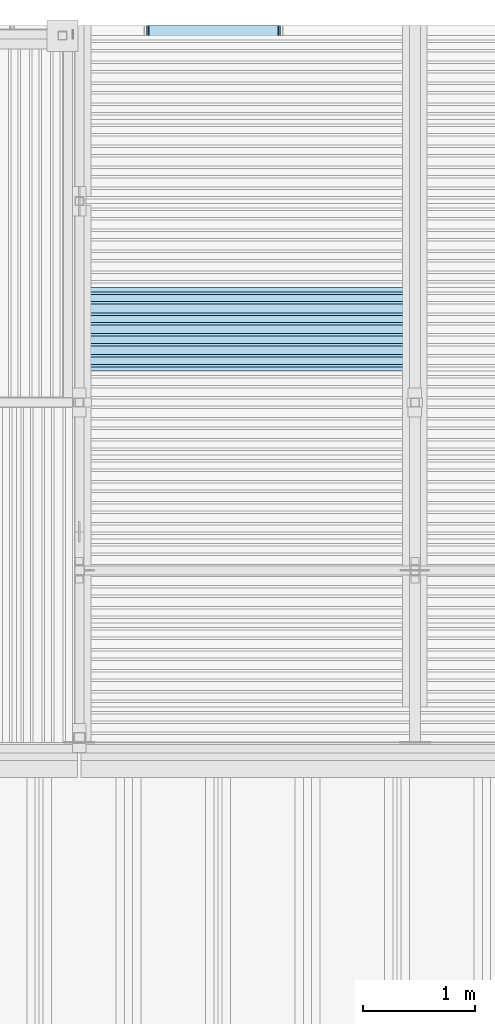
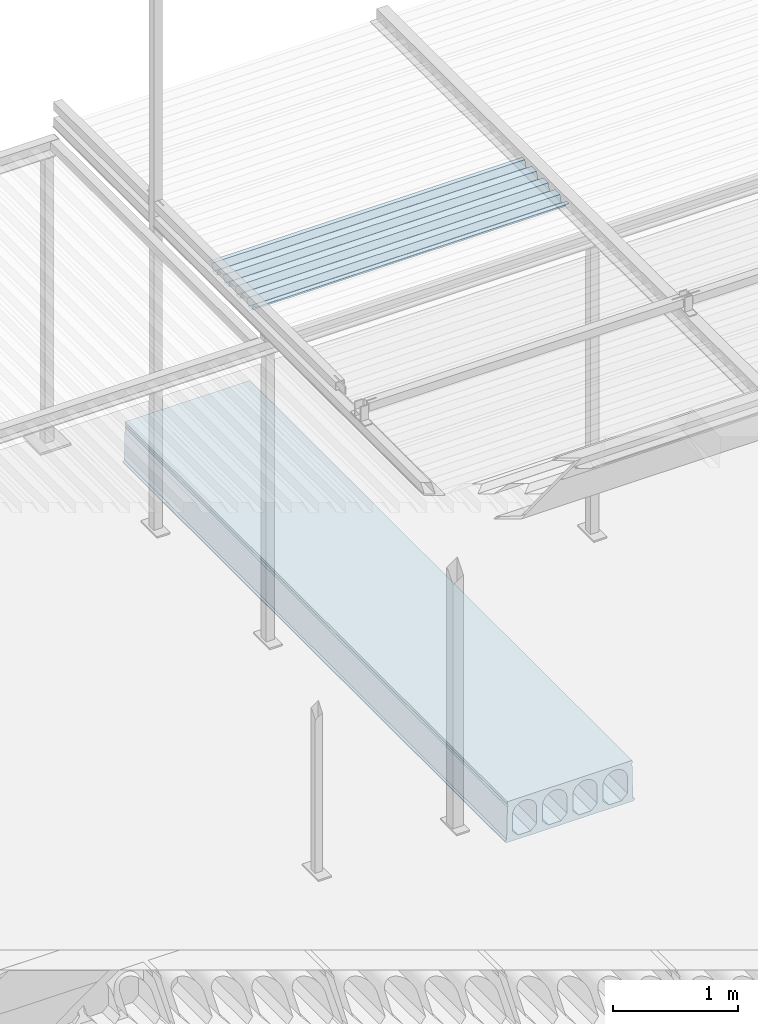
# One storey, part 84 of 98: 2 slabs.
"""IFC2X3 building model written with IfcOpenShell, lengths in millimetres."""

from ifc_helpers import new_model, entity, si_unit, converted_unit, derived_unit, direction, frame, origin_with_axes, place, context, subcontext, project, spatial, faceted_brep, material, type_object, element, save


model = new_model("IFC2X3")

# Units and contexts
model_context = context("Model", 3, precision=0.01, world=frame((0.0, 4.29681676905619e-09, 0.0)), true_north=direction((4.01073788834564e-13, 1.0)))
plan_context = context("Plan", 3, precision=0.01, world=frame((0.0, 4.29681676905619e-09, 0.0)), true_north=direction((4.01073788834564e-13, 1.0)))
body_context = subcontext(model_context, "Body", "Model", "MODEL_VIEW")
ifc_project = project(units=[converted_unit("PLANEANGLEUNIT", "DEGREE", entity("IfcPositiveLengthMeasure", 0.0174532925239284), si_unit("PLANEANGLEUNIT", "RADIAN"), dimensions=[0, 0, 0, 0, 0, 0, 0]), si_unit("AREAUNIT", "SQUARE_METRE"), si_unit("LENGTHUNIT", "METRE", prefix="MILLI"), si_unit("MASSUNIT", "GRAM", prefix="KILO"), si_unit("POWERUNIT", "WATT"), si_unit("PRESSUREUNIT", "PASCAL"), si_unit("FORCEUNIT", "NEWTON", prefix="KILO"), si_unit("ELECTRICCURRENTUNIT", "AMPERE"), si_unit("THERMODYNAMICTEMPERATUREUNIT", "DEGREE_CELSIUS"), si_unit("TIMEUNIT", "SECOND"), si_unit("VOLUMEUNIT", "CUBIC_METRE"), derived_unit("LINEARVELOCITYUNIT", [(si_unit("LENGTHUNIT", "METRE"), 1), (si_unit("TIMEUNIT", "SECOND"), -1)]), derived_unit("VOLUMETRICFLOWRATEUNIT", [(si_unit("VOLUMEUNIT", "CUBIC_METRE"), 1), (si_unit("TIMEUNIT", "SECOND"), -1)]), derived_unit("THERMALTRANSMITTANCEUNIT", [(si_unit("POWERUNIT", "WATT"), 1), (si_unit("THERMODYNAMICTEMPERATUREUNIT", "KELVIN"), -1), (si_unit("AREAUNIT", "SQUARE_METRE"), -1)])], contexts=[model_context, plan_context])

# Site, building, storey
site_placement = place(None, frame((0.0, -4.29681676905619e-09, 0.0), z_axis=(0.0, 0.0, 1.0), x_axis=(1.0, 0.0, 0.0)))
site = spatial("IfcSite", under=ifc_project, at=site_placement, Name="Gardermoen", CompositionType="ELEMENT")
building_placement = place(site_placement, frame((0.0, 4.29681676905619e-09, 0.0), z_axis=(0.0, 0.0, 1.0), x_axis=(1.0, 0.0, 0.0)))
building = spatial("IfcBuilding", under=site, at=building_placement, Name="TS", CompositionType="ELEMENT")
storey_placement = place(building_placement, origin_with_axes())
storey = spatial("IfcBuildingStorey", under=building, at=storey_placement, Name="D", CompositionType="ELEMENT", Elevation=0.0)

# Slabs
slab_type_1 = type_object("IfcSlabType", Name="HD400", PredefinedType="NOTDEFINED")
slab_1_placement = place(storey_placement, frame((521199.999766, 414739.995625, 203600.0), z_axis=(0.0, 0.0, 1.0), x_axis=(0.0, 1.0, 0.0)))
element("IfcSlab", 1, at=slab_1_placement, inside=storey, type_object=slab_type_1, Name="HULLDEKKE", ObjectType="HD400", PredefinedType="FLOOR", context=body_context, shape_type="Brep", body=[
    faceted_brep([(6130.19582840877, 600.0, -190.0), (6130.19582840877, 600.0, -180.0), (0.0, 600.0, -180.0), (0.0, 600.0, -190.0), (6130.19582840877, 585.0, -170.0), (0.0, 585.0, -170.0), (6130.19582840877, 577.5, 145.0), (0.0, 577.5, 145.0), (6130.19582840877, 570.0, 160.0), (0.0, 570.0, 160.0), (6130.19582840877, 577.5, 175.0), (0.0, 577.5, 175.0), (6130.19582840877, 577.5, 200.0), (0.0, 577.5, 200.0), (6130.19582840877, -577.5, 200.0), (0.0, -577.5, 200.0), (6130.19582840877, -577.5, 175.0), (0.0, -577.5, 175.0), (6130.19582840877, -570.0, 160.0), (0.0, -570.0, 160.0), (6130.19582840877, -577.5, 145.0), (0.0, -577.5, 145.0), (6130.19582840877, -585.0, -170.0), (0.0, -585.0, -170.0), (6130.19582840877, -600.0, -180.0), (0.0, -600.0, -180.0), (6130.19582840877, -600.0, -190.0), (0.0, -600.0, -190.0), (6130.19582840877, -583.380004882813, -200.0), (0.0, -583.380004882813, -200.0), (6130.19582840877, 583.380004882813, -200.0), (0.0, 583.380004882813, -200.0), (6130.19582840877, -362.5, -160.0), (6130.19582840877, -477.5, -160.0), (0.0, -477.5, -160.0), (0.0, -362.5, -160.0), (6130.19582840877, -532.5, -105.0), (0.0, -532.5, -105.0), (6130.19582840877, -532.5, 47.5), (0.0, -532.5, 47.5), (6130.19582840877, -532.115755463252, 56.7901763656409), (0.0, -532.115755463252, 56.7901763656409), (6130.19582840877, -530.965646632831, 66.0168914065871), (0.0, -530.965646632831, 66.0168914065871), (6130.19582840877, -529.057529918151, 75.1171173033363), (0.0, -529.057529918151, 75.1171173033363), (6130.19582840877, -526.404439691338, 84.028690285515), (0.0, -526.404439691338, 84.028690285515), (6130.19582840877, -523.024499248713, 92.6907352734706), (0.0, -523.024499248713, 92.6907352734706), (6130.19582840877, -518.940797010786, 101.044081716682), (0.0, -518.940797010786, 101.044081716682), (6130.19582840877, -514.181228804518, 109.031667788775), (0.0, -514.181228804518, 109.031667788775), (6130.19582840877, -508.778307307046, 116.598930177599), (0.0, -508.778307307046, 116.598930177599), (6130.19582840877, -502.768939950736, 123.694176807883), (0.0, -502.768939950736, 123.694176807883), (6130.19582840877, -496.194176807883, 130.268939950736), (0.0, -496.194176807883, 130.268939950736), (6130.19582840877, -489.098930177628, 136.278307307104), (0.0, -489.098930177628, 136.278307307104), (6130.19582840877, -481.531667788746, 141.681228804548), (0.0, -481.531667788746, 141.681228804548), (6130.19582840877, -473.544081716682, 146.440797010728), (0.0, -473.544081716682, 146.440797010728), (6130.19582840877, -465.190735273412, 150.524499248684), (0.0, -465.190735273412, 150.524499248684), (6130.19582840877, -456.528690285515, 153.904439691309), (0.0, -456.528690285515, 153.904439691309), (6130.19582840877, -447.617117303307, 156.55752991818), (0.0, -447.617117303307, 156.55752991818), (6130.19582840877, -438.516891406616, 158.465646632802), (0.0, -438.516891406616, 158.465646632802), (6130.19582840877, -429.290176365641, 159.615755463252), (0.0, -429.290176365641, 159.615755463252), (6130.19582840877, -420.0, 160.0), (0.0, -420.0, 160.0), (6130.19582840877, -410.709823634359, 159.615755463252), (0.0, -410.709823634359, 159.615755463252), (6130.19582840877, -401.483108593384, 158.465646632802), (0.0, -401.483108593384, 158.465646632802), (6130.19582840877, -392.382882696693, 156.55752991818), (0.0, -392.382882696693, 156.55752991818), (6130.19582840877, -383.471309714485, 153.904439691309), (0.0, -383.471309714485, 153.904439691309), (6130.19582840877, -374.809264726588, 150.524499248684), (0.0, -374.809264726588, 150.524499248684), (6130.19582840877, -366.455918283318, 146.440797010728), (0.0, -366.455918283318, 146.440797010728), (6130.19582840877, -358.468332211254, 141.681228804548), (0.0, -358.468332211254, 141.681228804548), (6130.19582840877, -350.901069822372, 136.278307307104), (0.0, -350.901069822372, 136.278307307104), (6130.19582840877, -343.805823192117, 130.268939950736), (0.0, -343.805823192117, 130.268939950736), (6130.19582840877, -337.231060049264, 123.694176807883), (0.0, -337.231060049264, 123.694176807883), (6130.19582840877, -331.221692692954, 116.598930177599), (0.0, -331.221692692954, 116.598930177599), (6130.19582840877, -325.818771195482, 109.031667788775), (0.0, -325.818771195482, 109.031667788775), (6130.19582840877, -321.059202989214, 101.044081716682), (0.0, -321.059202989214, 101.044081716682), (6130.19582840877, -316.975500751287, 92.6907352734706), (0.0, -316.975500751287, 92.6907352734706), (6130.19582840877, -313.595560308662, 84.028690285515), (0.0, -313.595560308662, 84.028690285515), (6130.19582840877, -310.942470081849, 75.1171173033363), (0.0, -310.942470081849, 75.1171173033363), (6130.19582840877, -309.034353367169, 66.0168914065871), (0.0, -309.034353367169, 66.0168914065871), (6130.19582840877, -307.884244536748, 56.7901763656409), (0.0, -307.884244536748, 56.7901763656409), (6130.19582840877, -307.5, 47.5), (0.0, -307.5, 47.5), (6130.19582840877, -307.5, -105.0), (0.0, -307.5, -105.0), (6130.19582840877, -82.5, -160.0), (6130.19582840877, -197.5, -160.0), (0.0, -197.5, -160.0), (0.0, -82.5, -160.0), (6130.19582840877, -252.5, -105.0), (0.0, -252.5, -105.0), (6130.19582840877, -252.5, 47.5), (0.0, -252.5, 47.5), (6130.19582840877, -252.115755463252, 56.7901763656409), (0.0, -252.115755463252, 56.7901763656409), (6130.19582840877, -250.965646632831, 66.0168914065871), (0.0, -250.965646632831, 66.0168914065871), (6130.19582840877, -249.057529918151, 75.1171173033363), (0.0, -249.057529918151, 75.1171173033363), (6130.19582840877, -246.404439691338, 84.028690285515), (0.0, -246.404439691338, 84.028690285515), (6130.19582840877, -243.024499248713, 92.6907352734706), (0.0, -243.024499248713, 92.6907352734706), (6130.19582840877, -238.940797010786, 101.044081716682), (0.0, -238.940797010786, 101.044081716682), (6130.19582840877, -234.181228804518, 109.031667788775), (0.0, -234.181228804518, 109.031667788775), (6130.19582840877, -228.778307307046, 116.598930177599), (0.0, -228.778307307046, 116.598930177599), (6130.19582840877, -222.768939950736, 123.694176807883), (0.0, -222.768939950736, 123.694176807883), (6130.19582840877, -216.194176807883, 130.268939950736), (0.0, -216.194176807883, 130.268939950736), (6130.19582840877, -209.098930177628, 136.278307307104), (0.0, -209.098930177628, 136.278307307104), (6130.19582840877, -201.531667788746, 141.681228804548), (0.0, -201.531667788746, 141.681228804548), (6130.19582840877, -193.544081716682, 146.440797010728), (0.0, -193.544081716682, 146.440797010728), (6130.19582840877, -185.190735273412, 150.524499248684), (0.0, -185.190735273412, 150.524499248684), (6130.19582840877, -176.528690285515, 153.904439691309), (0.0, -176.528690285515, 153.904439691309), (6130.19582840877, -167.617117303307, 156.55752991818), (0.0, -167.617117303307, 156.55752991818), (6130.19582840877, -158.516891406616, 158.465646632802), (0.0, -158.516891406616, 158.465646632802), (6130.19582840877, -149.290176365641, 159.615755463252), (0.0, -149.290176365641, 159.615755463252), (6130.19582840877, -140.0, 160.0), (0.0, -140.0, 160.0), (6130.19582840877, -130.709823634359, 159.615755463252), (0.0, -130.709823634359, 159.615755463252), (6130.19582840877, -121.483108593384, 158.465646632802), (0.0, -121.483108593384, 158.465646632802), (6130.19582840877, -112.382882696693, 156.55752991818), (0.0, -112.382882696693, 156.55752991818), (6130.19582840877, -103.471309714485, 153.904439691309), (0.0, -103.471309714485, 153.904439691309), (6130.19582840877, -94.8092647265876, 150.524499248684), (0.0, -94.8092647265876, 150.524499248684), (6130.19582840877, -86.4559182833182, 146.440797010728), (0.0, -86.4559182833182, 146.440797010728), (6130.19582840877, -78.4683322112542, 141.681228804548), (0.0, -78.4683322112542, 141.681228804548), (6130.19582840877, -70.9010698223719, 136.278307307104), (0.0, -70.9010698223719, 136.278307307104), (6130.19582840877, -63.8058231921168, 130.268939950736), (0.0, -63.8058231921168, 130.268939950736), (6130.19582840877, -57.2310600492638, 123.694176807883), (0.0, -57.2310600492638, 123.694176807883), (6130.19582840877, -51.2216926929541, 116.598930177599), (0.0, -51.2216926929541, 116.598930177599), (6130.19582840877, -45.8187711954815, 109.031667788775), (0.0, -45.8187711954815, 109.031667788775), (6130.19582840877, -41.0592029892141, 101.044081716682), (0.0, -41.0592029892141, 101.044081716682), (6130.19582840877, -36.9755007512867, 92.6907352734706), (0.0, -36.9755007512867, 92.6907352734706), (6130.19582840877, -33.5955603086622, 84.028690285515), (0.0, -33.5955603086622, 84.028690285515), (6130.19582840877, -30.942470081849, 75.1171173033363), (0.0, -30.942470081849, 75.1171173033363), (6130.19582840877, -29.0343533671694, 66.0168914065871), (0.0, -29.0343533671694, 66.0168914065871), (6130.19582840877, -27.8842445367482, 56.7901763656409), (0.0, -27.8842445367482, 56.7901763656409), (6130.19582840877, -27.5, 47.5), (0.0, -27.5, 47.5), (6130.19582840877, -27.5, -105.0), (0.0, -27.5, -105.0), (6130.19582840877, 197.5, -160.0), (6130.19582840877, 82.5, -160.0), (0.0, 82.5, -160.0), (0.0, 197.5, -160.0), (6130.19582840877, 27.5, -105.0), (0.0, 27.5, -105.0), (6130.19582840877, 27.5, 47.5), (0.0, 27.5, 47.5), (6130.19582840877, 27.8842445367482, 56.7901763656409), (0.0, 27.8842445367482, 56.7901763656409), (6130.19582840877, 29.0343533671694, 66.0168914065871), (0.0, 29.0343533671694, 66.0168914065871), (6130.19582840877, 30.942470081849, 75.1171173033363), (0.0, 30.942470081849, 75.1171173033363), (6130.19582840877, 33.5955603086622, 84.028690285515), (0.0, 33.5955603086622, 84.028690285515), (6130.19582840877, 36.9755007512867, 92.6907352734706), (0.0, 36.9755007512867, 92.6907352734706), (6130.19582840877, 41.0592029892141, 101.044081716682), (0.0, 41.0592029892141, 101.044081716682), (6130.19582840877, 45.8187711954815, 109.031667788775), (0.0, 45.8187711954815, 109.031667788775), (6130.19582840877, 51.2216926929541, 116.598930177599), (0.0, 51.2216926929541, 116.598930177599), (6130.19582840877, 57.2310600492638, 123.694176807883), (0.0, 57.2310600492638, 123.694176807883), (6130.19582840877, 63.8058231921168, 130.268939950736), (0.0, 63.8058231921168, 130.268939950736), (6130.19582840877, 70.9010698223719, 136.278307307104), (0.0, 70.9010698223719, 136.278307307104), (6130.19582840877, 78.4683322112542, 141.681228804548), (0.0, 78.4683322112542, 141.681228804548), (6130.19582840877, 86.4559182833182, 146.440797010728), (0.0, 86.4559182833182, 146.440797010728), (6130.19582840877, 94.8092647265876, 150.524499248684), (0.0, 94.8092647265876, 150.524499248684), (6130.19582840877, 103.471309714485, 153.904439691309), (0.0, 103.471309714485, 153.904439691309), (6130.19582840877, 112.382882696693, 156.55752991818), (0.0, 112.382882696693, 156.55752991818), (6130.19582840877, 121.483108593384, 158.465646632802), (0.0, 121.483108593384, 158.465646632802), (6130.19582840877, 130.709823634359, 159.615755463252), (0.0, 130.709823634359, 159.615755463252), (6130.19582840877, 140.0, 160.0), (0.0, 140.0, 160.0), (6130.19582840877, 149.290176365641, 159.615755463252), (0.0, 149.290176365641, 159.615755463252), (6130.19582840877, 158.516891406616, 158.465646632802), (0.0, 158.516891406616, 158.465646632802), (6130.19582840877, 167.617117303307, 156.55752991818), (0.0, 167.617117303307, 156.55752991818), (6130.19582840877, 176.528690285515, 153.904439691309), (0.0, 176.528690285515, 153.904439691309), (6130.19582840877, 185.190735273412, 150.524499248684), (0.0, 185.190735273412, 150.524499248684), (6130.19582840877, 193.544081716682, 146.440797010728), (0.0, 193.544081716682, 146.440797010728), (6130.19582840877, 201.531667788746, 141.681228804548), (0.0, 201.531667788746, 141.681228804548), (6130.19582840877, 209.098930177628, 136.278307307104), (0.0, 209.098930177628, 136.278307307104), (6130.19582840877, 216.194176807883, 130.268939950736), (0.0, 216.194176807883, 130.268939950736), (6130.19582840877, 222.768939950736, 123.694176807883), (0.0, 222.768939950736, 123.694176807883), (6130.19582840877, 228.778307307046, 116.598930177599), (0.0, 228.778307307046, 116.598930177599), (6130.19582840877, 234.181228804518, 109.031667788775), (0.0, 234.181228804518, 109.031667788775), (6130.19582840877, 238.940797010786, 101.044081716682), (0.0, 238.940797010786, 101.044081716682), (6130.19582840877, 243.024499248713, 92.6907352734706), (0.0, 243.024499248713, 92.6907352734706), (6130.19582840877, 246.404439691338, 84.028690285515), (0.0, 246.404439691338, 84.028690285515), (6130.19582840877, 249.057529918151, 75.1171173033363), (0.0, 249.057529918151, 75.1171173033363), (6130.19582840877, 250.965646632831, 66.0168914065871), (0.0, 250.965646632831, 66.0168914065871), (6130.19582840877, 252.115755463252, 56.7901763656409), (0.0, 252.115755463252, 56.7901763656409), (6130.19582840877, 252.5, 47.5), (0.0, 252.5, 47.5), (6130.19582840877, 252.5, -105.0), (0.0, 252.5, -105.0), (6130.19582840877, 477.5, -160.0), (6130.19582840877, 362.5, -160.0), (0.0, 362.5, -160.0), (0.0, 477.5, -160.0), (6130.19582840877, 307.5, -105.0), (0.0, 307.5, -105.0), (6130.19582840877, 307.5, 47.5), (0.0, 307.5, 47.5), (6130.19582840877, 307.884244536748, 56.7901763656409), (0.0, 307.884244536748, 56.7901763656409), (6130.19582840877, 309.034353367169, 66.0168914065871), (0.0, 309.034353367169, 66.0168914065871), (6130.19582840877, 310.942470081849, 75.1171173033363), (0.0, 310.942470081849, 75.1171173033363), (6130.19582840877, 313.595560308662, 84.028690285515), (0.0, 313.595560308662, 84.028690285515), (6130.19582840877, 316.975500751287, 92.6907352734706), (0.0, 316.975500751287, 92.6907352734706), (6130.19582840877, 321.059202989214, 101.044081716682), (0.0, 321.059202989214, 101.044081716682), (6130.19582840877, 325.818771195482, 109.031667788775), (0.0, 325.818771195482, 109.031667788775), (6130.19582840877, 331.221692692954, 116.598930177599), (0.0, 331.221692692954, 116.598930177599), (6130.19582840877, 337.231060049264, 123.694176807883), (0.0, 337.231060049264, 123.694176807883), (6130.19582840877, 343.805823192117, 130.268939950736), (0.0, 343.805823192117, 130.268939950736), (6130.19582840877, 350.901069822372, 136.278307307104), (0.0, 350.901069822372, 136.278307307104), (6130.19582840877, 358.468332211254, 141.681228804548), (0.0, 358.468332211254, 141.681228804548), (6130.19582840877, 366.455918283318, 146.440797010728), (0.0, 366.455918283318, 146.440797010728), (6130.19582840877, 374.809264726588, 150.524499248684), (0.0, 374.809264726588, 150.524499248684), (6130.19582840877, 383.471309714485, 153.904439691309), (0.0, 383.471309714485, 153.904439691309), (6130.19582840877, 392.382882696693, 156.55752991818), (0.0, 392.382882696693, 156.55752991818), (6130.19582840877, 401.483108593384, 158.465646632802), (0.0, 401.483108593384, 158.465646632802), (6130.19582840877, 410.709823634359, 159.615755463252), (0.0, 410.709823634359, 159.615755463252), (6130.19582840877, 420.0, 160.0), (0.0, 420.0, 160.0), (6130.19582840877, 429.290176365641, 159.615755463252), (0.0, 429.290176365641, 159.615755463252), (6130.19582840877, 438.516891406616, 158.465646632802), (0.0, 438.516891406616, 158.465646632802), (6130.19582840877, 447.617117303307, 156.55752991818), (0.0, 447.617117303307, 156.55752991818), (6130.19582840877, 456.528690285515, 153.904439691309), (0.0, 456.528690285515, 153.904439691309), (6130.19582840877, 465.190735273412, 150.524499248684), (0.0, 465.190735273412, 150.524499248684), (6130.19582840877, 473.544081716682, 146.440797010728), (0.0, 473.544081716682, 146.440797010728), (6130.19582840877, 481.531667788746, 141.681228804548), (0.0, 481.531667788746, 141.681228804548), (6130.19582840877, 489.098930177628, 136.278307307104), (0.0, 489.098930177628, 136.278307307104), (6130.19582840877, 496.194176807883, 130.268939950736), (0.0, 496.194176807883, 130.268939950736), (6130.19582840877, 502.768939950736, 123.694176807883), (0.0, 502.768939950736, 123.694176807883), (6130.19582840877, 508.778307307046, 116.598930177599), (0.0, 508.778307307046, 116.598930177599), (6130.19582840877, 514.181228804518, 109.031667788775), (0.0, 514.181228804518, 109.031667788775), (6130.19582840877, 518.940797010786, 101.044081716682), (0.0, 518.940797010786, 101.044081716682), (6130.19582840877, 523.024499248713, 92.6907352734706), (0.0, 523.024499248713, 92.6907352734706), (6130.19582840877, 526.404439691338, 84.028690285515), (0.0, 526.404439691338, 84.028690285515), (6130.19582840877, 529.057529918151, 75.1171173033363), (0.0, 529.057529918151, 75.1171173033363), (6130.19582840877, 530.965646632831, 66.0168914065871), (0.0, 530.965646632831, 66.0168914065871), (6130.19582840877, 532.115755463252, 56.7901763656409), (0.0, 532.115755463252, 56.7901763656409), (6130.19582840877, 532.5, 47.5), (0.0, 532.5, 47.5), (6130.19582840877, 532.5, -105.0), (0.0, 532.5, -105.0)], [[[0, 1, 2, 3]], [[1, 4, 5, 2]], [[4, 6, 7, 5]], [[6, 8, 9, 7]], [[8, 10, 11, 9]], [[10, 12, 13, 11]], [[12, 14, 15, 13]], [[14, 16, 17, 15]], [[16, 18, 19, 17]], [[18, 20, 21, 19]], [[20, 22, 23, 21]], [[22, 24, 25, 23]], [[24, 26, 27, 25]], [[26, 28, 29, 27]], [[28, 30, 31, 29]], [[30, 0, 3, 31]], [[32, 33, 34, 35]], [[33, 36, 37, 34]], [[36, 38, 39, 37]], [[38, 40, 41, 39]], [[40, 42, 43, 41]], [[42, 44, 45, 43]], [[44, 46, 47, 45]], [[46, 48, 49, 47]], [[48, 50, 51, 49]], [[50, 52, 53, 51]], [[52, 54, 55, 53]], [[54, 56, 57, 55]], [[56, 58, 59, 57]], [[58, 60, 61, 59]], [[60, 62, 63, 61]], [[62, 64, 65, 63]], [[64, 66, 67, 65]], [[66, 68, 69, 67]], [[68, 70, 71, 69]], [[70, 72, 73, 71]], [[72, 74, 75, 73]], [[74, 76, 77, 75]], [[76, 78, 79, 77]], [[78, 80, 81, 79]], [[80, 82, 83, 81]], [[82, 84, 85, 83]], [[84, 86, 87, 85]], [[86, 88, 89, 87]], [[88, 90, 91, 89]], [[90, 92, 93, 91]], [[92, 94, 95, 93]], [[94, 96, 97, 95]], [[96, 98, 99, 97]], [[98, 100, 101, 99]], [[100, 102, 103, 101]], [[102, 104, 105, 103]], [[104, 106, 107, 105]], [[106, 108, 109, 107]], [[108, 110, 111, 109]], [[110, 112, 113, 111]], [[112, 114, 115, 113]], [[114, 116, 117, 115]], [[116, 32, 35, 117]], [[118, 119, 120, 121]], [[119, 122, 123, 120]], [[122, 124, 125, 123]], [[124, 126, 127, 125]], [[126, 128, 129, 127]], [[128, 130, 131, 129]], [[130, 132, 133, 131]], [[132, 134, 135, 133]], [[134, 136, 137, 135]], [[136, 138, 139, 137]], [[138, 140, 141, 139]], [[140, 142, 143, 141]], [[142, 144, 145, 143]], [[144, 146, 147, 145]], [[146, 148, 149, 147]], [[148, 150, 151, 149]], [[150, 152, 153, 151]], [[152, 154, 155, 153]], [[154, 156, 157, 155]], [[156, 158, 159, 157]], [[158, 160, 161, 159]], [[160, 162, 163, 161]], [[162, 164, 165, 163]], [[164, 166, 167, 165]], [[166, 168, 169, 167]], [[168, 170, 171, 169]], [[170, 172, 173, 171]], [[172, 174, 175, 173]], [[174, 176, 177, 175]], [[176, 178, 179, 177]], [[178, 180, 181, 179]], [[180, 182, 183, 181]], [[182, 184, 185, 183]], [[184, 186, 187, 185]], [[186, 188, 189, 187]], [[188, 190, 191, 189]], [[190, 192, 193, 191]], [[192, 194, 195, 193]], [[194, 196, 197, 195]], [[196, 198, 199, 197]], [[198, 200, 201, 199]], [[200, 202, 203, 201]], [[202, 118, 121, 203]], [[204, 205, 206, 207]], [[205, 208, 209, 206]], [[208, 210, 211, 209]], [[210, 212, 213, 211]], [[212, 214, 215, 213]], [[214, 216, 217, 215]], [[216, 218, 219, 217]], [[218, 220, 221, 219]], [[220, 222, 223, 221]], [[222, 224, 225, 223]], [[224, 226, 227, 225]], [[226, 228, 229, 227]], [[228, 230, 231, 229]], [[230, 232, 233, 231]], [[232, 234, 235, 233]], [[234, 236, 237, 235]], [[236, 238, 239, 237]], [[238, 240, 241, 239]], [[240, 242, 243, 241]], [[242, 244, 245, 243]], [[244, 246, 247, 245]], [[246, 248, 249, 247]], [[248, 250, 251, 249]], [[250, 252, 253, 251]], [[252, 254, 255, 253]], [[254, 256, 257, 255]], [[256, 258, 259, 257]], [[258, 260, 261, 259]], [[260, 262, 263, 261]], [[262, 264, 265, 263]], [[264, 266, 267, 265]], [[266, 268, 269, 267]], [[268, 270, 271, 269]], [[270, 272, 273, 271]], [[272, 274, 275, 273]], [[274, 276, 277, 275]], [[276, 278, 279, 277]], [[278, 280, 281, 279]], [[280, 282, 283, 281]], [[282, 284, 285, 283]], [[284, 286, 287, 285]], [[286, 288, 289, 287]], [[288, 204, 207, 289]], [[290, 291, 292, 293]], [[291, 294, 295, 292]], [[294, 296, 297, 295]], [[296, 298, 299, 297]], [[298, 300, 301, 299]], [[300, 302, 303, 301]], [[302, 304, 305, 303]], [[304, 306, 307, 305]], [[306, 308, 309, 307]], [[308, 310, 311, 309]], [[310, 312, 313, 311]], [[312, 314, 315, 313]], [[314, 316, 317, 315]], [[316, 318, 319, 317]], [[318, 320, 321, 319]], [[320, 322, 323, 321]], [[322, 324, 325, 323]], [[324, 326, 327, 325]], [[326, 328, 329, 327]], [[328, 330, 331, 329]], [[330, 332, 333, 331]], [[332, 334, 335, 333]], [[334, 336, 337, 335]], [[336, 338, 339, 337]], [[338, 340, 341, 339]], [[340, 342, 343, 341]], [[342, 344, 345, 343]], [[344, 346, 347, 345]], [[346, 348, 349, 347]], [[348, 350, 351, 349]], [[350, 352, 353, 351]], [[352, 354, 355, 353]], [[354, 356, 357, 355]], [[356, 358, 359, 357]], [[358, 360, 361, 359]], [[360, 362, 363, 361]], [[362, 364, 365, 363]], [[364, 366, 367, 365]], [[366, 368, 369, 367]], [[368, 370, 371, 369]], [[370, 372, 373, 371]], [[372, 374, 375, 373]], [[374, 290, 293, 375]], [[3, 2, 5, 7, 9, 11, 13, 15, 17, 19, 21, 23, 25, 27, 29, 31], [293, 292, 295, 297, 299, 301, 303, 305, 307, 309, 311, 313, 315, 317, 319, 321, 323, 325, 327, 329, 331, 333, 335, 337, 339, 341, 343, 345, 347, 349, 351, 353, 355, 357, 359, 361, 363, 365, 367, 369, 371, 373, 375], [207, 206, 209, 211, 213, 215, 217, 219, 221, 223, 225, 227, 229, 231, 233, 235, 237, 239, 241, 243, 245, 247, 249, 251, 253, 255, 257, 259, 261, 263, 265, 267, 269, 271, 273, 275, 277, 279, 281, 283, 285, 287, 289], [121, 120, 123, 125, 127, 129, 131, 133, 135, 137, 139, 141, 143, 145, 147, 149, 151, 153, 155, 157, 159, 161, 163, 165, 167, 169, 171, 173, 175, 177, 179, 181, 183, 185, 187, 189, 191, 193, 195, 197, 199, 201, 203], [35, 34, 37, 39, 41, 43, 45, 47, 49, 51, 53, 55, 57, 59, 61, 63, 65, 67, 69, 71, 73, 75, 77, 79, 81, 83, 85, 87, 89, 91, 93, 95, 97, 99, 101, 103, 105, 107, 109, 111, 113, 115, 117]], [[30, 28, 26, 24, 22, 20, 18, 16, 14, 12, 10, 8, 6, 4, 1, 0], [116, 114, 112, 110, 108, 106, 104, 102, 100, 98, 96, 94, 92, 90, 88, 86, 84, 82, 80, 78, 76, 74, 72, 70, 68, 66, 64, 62, 60, 58, 56, 54, 52, 50, 48, 46, 44, 42, 40, 38, 36, 33, 32], [202, 200, 198, 196, 194, 192, 190, 188, 186, 184, 182, 180, 178, 176, 174, 172, 170, 168, 166, 164, 162, 160, 158, 156, 154, 152, 150, 148, 146, 144, 142, 140, 138, 136, 134, 132, 130, 128, 126, 124, 122, 119, 118], [288, 286, 284, 282, 280, 278, 276, 274, 272, 270, 268, 266, 264, 262, 260, 258, 256, 254, 252, 250, 248, 246, 244, 242, 240, 238, 236, 234, 232, 230, 228, 226, 224, 222, 220, 218, 216, 214, 212, 210, 208, 205, 204], [374, 372, 370, 368, 366, 364, 362, 360, 358, 356, 354, 352, 350, 348, 346, 344, 342, 340, 338, 336, 334, 332, 330, 328, 326, 324, 322, 320, 318, 316, 314, 312, 310, 308, 306, 304, 302, 300, 298, 296, 294, 291, 290]]], orient=[[False], [False], [False], [False], [False], [False], [False], [False], [False], [False], [False], [False], [False], [False], [False], [False], [False], [False], [False], [False], [False], [False], [False], [False], [False], [False], [False], [False], [False], [False], [False], [False], [False], [False], [False], [False], [False], [False], [False], [False], [False], [False], [False], [False], [False], [False], [False], [False], [False], [False], [False], [False], [False], [False], [False], [False], [False], [False], [False], [False], [False], [False], [False], [False], [False], [False], [False], [False], [False], [False], [False], [False], [False], [False], [False], [False], [False], [False], [False], [False], [False], [False], [False], [False], [False], [False], [False], [False], [False], [False], [False], [False], [False], [False], [False], [False], [False], [False], [False], [False], [False], [False], [False], [False], [False], [False], [False], [False], [False], [False], [False], [False], [False], [False], [False], [False], [False], [False], [False], [False], [False], [False], [False], [False], [False], [False], [False], [False], [False], [False], [False], [False], [False], [False], [False], [False], [False], [False], [False], [False], [False], [False], [False], [False], [False], [False], [False], [False], [False], [False], [False], [False], [False], [False], [False], [False], [False], [False], [False], [False], [False], [False], [False], [False], [False], [False], [False], [False], [False], [False], [False], [False], [False], [False], [False], [False], [False], [False], [False], [False], [False], [False], [False], [False], [False], [False], [False], [False], [False, False, False, False, False], [False, False, False, False, False]]),
])
ifc_material = material(Name="STEEL/S355")
slab_type_2 = type_object("IfcSlabType", Name="PLANJA70", PredefinedType="NOTDEFINED")
slab_2_placement = place(storey_placement, frame((522950.000000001, 418154.996695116, 206958.849718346), z_axis=(0.0, 0.0, 1.0), x_axis=(-0.999999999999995, -9.99999902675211e-08, 0.0)))
element("IfcSlab", 2, at=slab_2_placement, inside=storey, type_object=slab_type_2, material=ifc_material, Name="STÅLTAK", ObjectType="PLANJA70", PredefinedType="FLOOR", context=body_context, shape_type="Brep", body=[
    faceted_brep([(0.0, 375.0, 34.1500015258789), (0.0, 335.299987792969, 34.1500015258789), (2900.00079747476, 335.299987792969, 34.1500015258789), (2900.00079747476, 375.0, 34.1500015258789), (0.0, 313.010681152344, -32.1500015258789), (2900.00079747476, 313.010681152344, -32.1500015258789), (0.0, 249.489303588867, -32.1500015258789), (2900.00079747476, 249.489303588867, -32.1500015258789), (0.0, 227.199996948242, 34.1500015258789), (2900.00079747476, 227.199996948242, 34.1500015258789), (0.0, 147.800003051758, 34.1500015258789), (2900.00079747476, 147.800003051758, 34.1500015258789), (0.0, 125.280120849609, -33.1500015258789), (2900.00079747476, 125.280120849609, -33.1500015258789), (0.0, 62.2198791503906, -33.1500015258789), (2900.00079747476, 62.2198791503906, -33.1500015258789), (0.0, 39.7000007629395, 34.1500015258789), (2900.00079747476, 39.7000007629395, 34.1500015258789), (0.0, -39.7000007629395, 34.1500015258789), (2900.00079747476, -39.7000007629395, 34.1500015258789), (0.0, -62.2198791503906, -33.1500015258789), (2900.00079747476, -62.2198791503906, -33.1500015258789), (0.0, -125.280120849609, -33.1500015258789), (2900.00079747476, -125.280120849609, -33.1500015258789), (0.0, -147.800003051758, 34.1500015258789), (2900.00079747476, -147.800003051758, 34.1500015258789), (0.0, -227.199996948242, 34.1500015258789), (2900.00079747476, -227.199996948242, 34.1500015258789), (0.0, -249.719879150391, -33.1500015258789), (2900.00079747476, -249.719879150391, -33.1500015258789), (0.0, -312.781188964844, -33.1500015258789), (2900.00079747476, -312.781188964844, -33.1500015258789), (0.0, -335.070495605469, 33.1500015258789), (2900.00079747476, -335.070495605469, 33.1500015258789), (0.0, -375.0, 33.1500015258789), (2900.00079747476, -375.0, 33.1500015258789), (0.0, -375.0, 32.1500015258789), (2900.00079747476, -375.0, 32.1500015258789), (0.0, -335.789306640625, 32.1500015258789), (2900.00079747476, -335.789306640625, 32.1500015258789), (0.0, -313.5, -34.1500015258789), (2900.00079747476, -313.5, -34.1500015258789), (0.0, -249.0, -34.1500015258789), (2900.00079747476, -249.0, -34.1500015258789), (0.0, -226.480117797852, 33.1500015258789), (2900.00079747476, -226.480117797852, 33.1500015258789), (0.0, -148.519882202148, 33.1500015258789), (2900.00079747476, -148.519882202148, 33.1500015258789), (0.0, -126.0, -34.1500015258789), (2900.00079747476, -126.0, -34.1500015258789), (0.0, -61.5, -34.1500015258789), (2900.00079747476, -61.5, -34.1500015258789), (0.0, -38.9801177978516, 33.1500015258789), (2900.00079747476, -38.9801177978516, 33.1500015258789), (0.0, 38.9801177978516, 33.1500015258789), (2900.00079747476, 38.9801177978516, 33.1500015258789), (0.0, 61.5, -34.1500015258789), (2900.00079747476, 61.5, -34.1500015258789), (0.0, 126.0, -34.1500015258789), (2900.00079747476, 126.0, -34.1500015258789), (0.0, 148.519882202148, 33.1500015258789), (2900.00079747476, 148.519882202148, 33.1500015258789), (0.0, 226.481185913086, 33.1500015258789), (2900.00079747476, 226.481185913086, 33.1500015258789), (0.0, 248.770492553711, -33.1500015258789), (2900.00079747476, 248.770492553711, -33.1500015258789), (0.0, 313.7294921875, -33.1500015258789), (2900.00079747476, 313.7294921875, -33.1500015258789), (0.0, 336.018798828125, 33.1500015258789), (2900.00079747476, 336.018798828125, 33.1500015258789), (0.0, 375.0, 33.1500015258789), (2900.00079747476, 375.0, 33.1500015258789)], [[[0, 1, 2, 3]], [[1, 4, 5, 2]], [[4, 6, 7, 5]], [[6, 8, 9, 7]], [[8, 10, 11, 9]], [[10, 12, 13, 11]], [[12, 14, 15, 13]], [[14, 16, 17, 15]], [[16, 18, 19, 17]], [[18, 20, 21, 19]], [[22, 23, 21, 20]], [[22, 24, 25, 23]], [[24, 26, 27, 25]], [[26, 28, 29, 27]], [[28, 30, 31, 29]], [[30, 32, 33, 31]], [[32, 34, 35, 33]], [[34, 36, 37, 35]], [[36, 38, 39, 37]], [[38, 40, 41, 39]], [[40, 42, 43, 41]], [[42, 44, 45, 43]], [[44, 46, 47, 45]], [[46, 48, 49, 47]], [[48, 50, 51, 49]], [[50, 52, 53, 51]], [[52, 54, 55, 53]], [[54, 56, 57, 55]], [[56, 58, 59, 57]], [[58, 60, 61, 59]], [[60, 62, 63, 61]], [[62, 64, 65, 63]], [[64, 66, 67, 65]], [[66, 68, 69, 67]], [[68, 70, 71, 69]], [[70, 0, 3, 71]], [[5, 7, 9, 11, 13, 15, 17, 19, 21, 23, 25, 27, 29, 31, 33, 35, 37, 39, 41, 43, 45, 47, 49, 51, 53, 55, 57, 59, 61, 63, 65, 67, 69, 71, 3, 2]], [[70, 68, 66, 64, 62, 60, 58, 56, 54, 52, 50, 48, 46, 44, 42, 40, 38, 36, 34, 32, 30, 28, 26, 24, 22, 20, 18, 16, 14, 12, 10, 8, 6, 4, 1, 0]]]),
])

save(model, "model.ifc")
